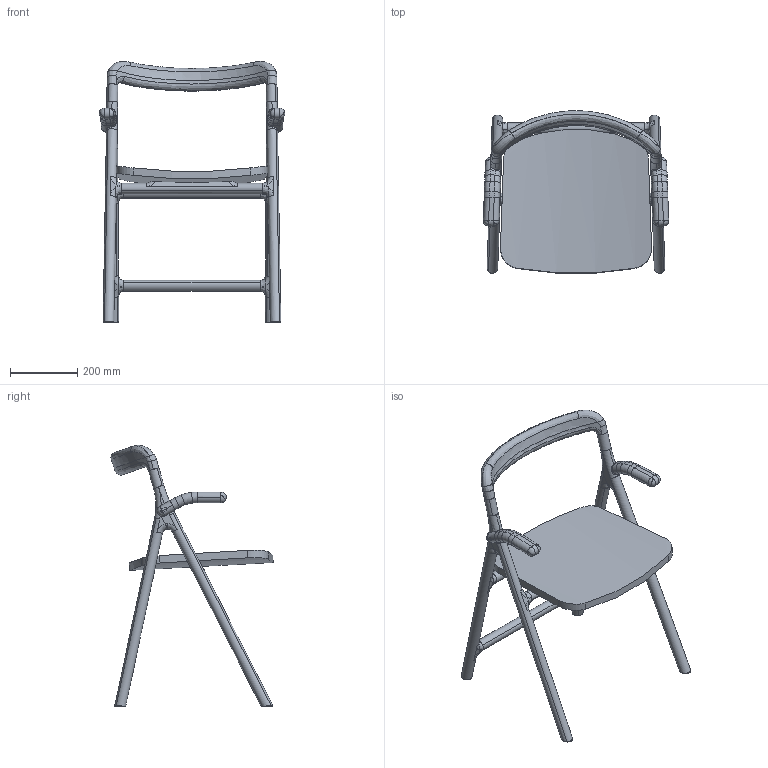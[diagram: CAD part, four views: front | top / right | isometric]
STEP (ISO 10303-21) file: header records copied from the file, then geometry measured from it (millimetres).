
FILE_DESCRIPTION (( 'STEP AP203' ), '1' );
FILE_NAME ('MARSHALL STOLICA.STEP', '2020-07-09T05:24:46', ( '' ), ( '' ), 'SwSTEP 2.0', 'SolidWorks 2020', '' );
FILE_SCHEMA (( 'CONFIG_CONTROL_DESIGN' ));
Length unit declared in the file: millimetre
Products named in the file (2): MARSHALL STOLICA; Stolica MARSHALL 2 3d 28.08.2019-1^Assem7_defeature
Assembly tree (1 placements, depth 2):
  MARSHALL STOLICA
    Stolica MARSHALL 2 3d 28.08.2019-1^Assem7_defeature
Bounding box: 552.16 x 483.24 x 778.01 mm (x, y, z)
Volume: 9071200.4 mm3; surface area: 1015938.7 mm2
Topology: 14 solids, 14 shells, 383 faces, 978 edges, 623 vertices
Faces by surface type: plane 115, cylinder 114, torus 78, bspline 56, sphere 20
Entity records: 41684 total; most frequent: CARTESIAN_POINT 32863, ORIENTED_EDGE 1936, DIRECTION 1645, EDGE_CURVE 968, AXIS2_PLACEMENT_3D 689, VERTEX_POINT 621, EDGE_LOOP 393, ADVANCED_FACE 383
